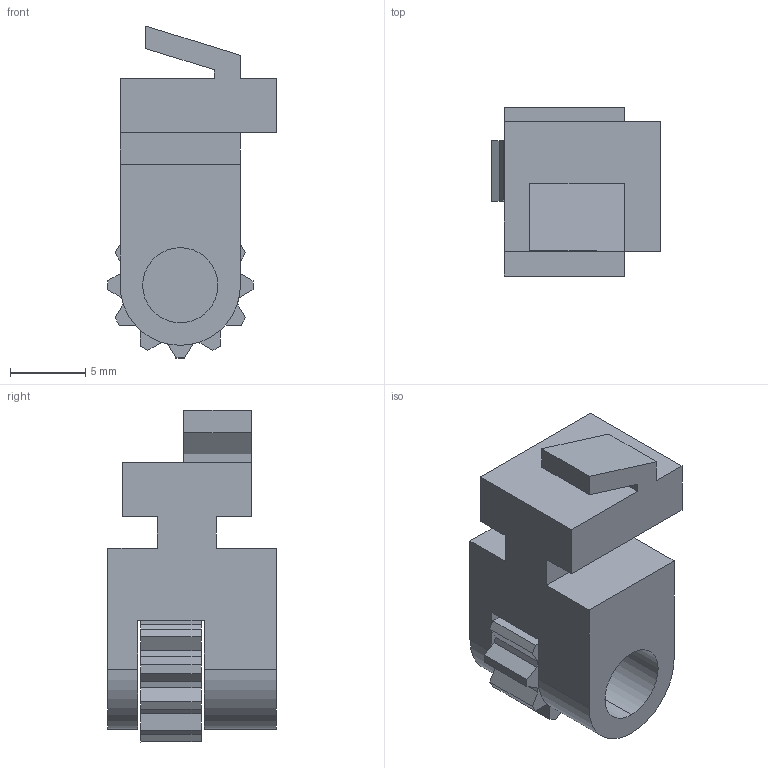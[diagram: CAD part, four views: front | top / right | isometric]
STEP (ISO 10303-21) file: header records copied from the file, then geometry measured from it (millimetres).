
FILE_DESCRIPTION (( 'STEP AP203' ), '1' );
FILE_NAME ('Vianaro V8 Tiefenverstellung für Rastkupplung links.step', '2022-04-13T13:43:41', ( '' ), ( '' ), 'SwSTEP 2.0', 'SolidWorks 2021', '' );
FILE_SCHEMA (( 'CONFIG_CONTROL_DESIGN' ));
Length unit declared in the file: millimetre
Products named in the file (1): Vianaro V8 Tiefenverstellung für Rastkupplung links
Bounding box: 11.24 x 11.2 x 22.09 mm (x, y, z)
Volume: 1195.2 mm3; surface area: 1434 mm2
Topology: 2 solids, 2 shells, 85 faces, 246 edges, 164 vertices
Faces by surface type: plane 77, cylinder 8
Entity records: 2843 total; most frequent: CARTESIAN_POINT 496, ORIENTED_EDGE 492, DIRECTION 434, EDGE_CURVE 246, VECTOR 230, LINE 230, VERTEX_POINT 164, AXIS2_PLACEMENT_3D 102
